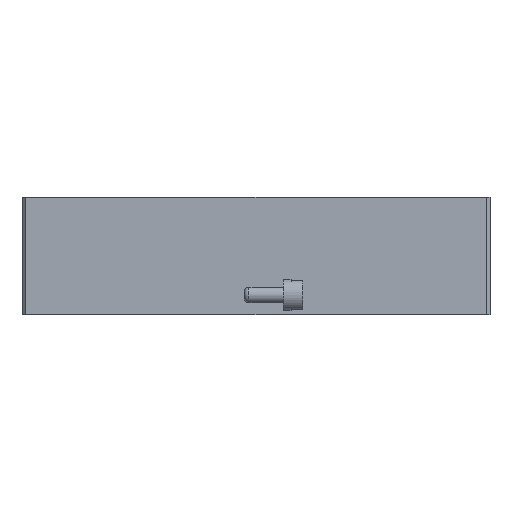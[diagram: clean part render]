
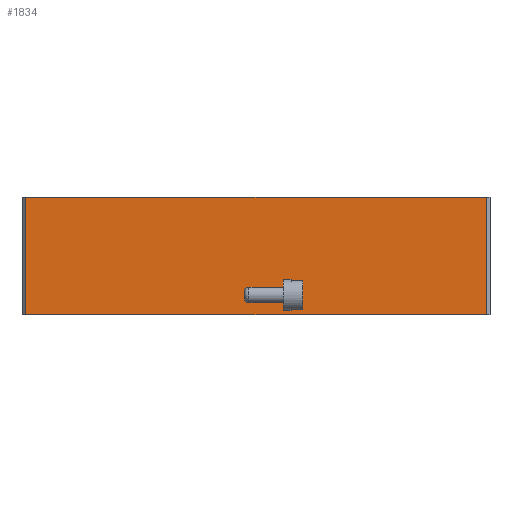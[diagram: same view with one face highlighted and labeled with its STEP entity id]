
A CAD part, front view. The second image highlights one B-rep face of the part: STEP entity #1834.
In plain terms, the highlighted planar face has unit normal (0, -1, 0).
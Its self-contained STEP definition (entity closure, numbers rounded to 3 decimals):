
#22 = DIRECTION ( 'NONE',  ( 0., -1., 0. ) ) ;
#86 = DIRECTION ( 'NONE',  ( 0., -1., 0. ) ) ;
#214 = ORIENTED_EDGE ( 'NONE', *, *, #457, .T. ) ;
#223 = CARTESIAN_POINT ( 'NONE',  ( 59., -60., 0. ) ) ;
#234 = CARTESIAN_POINT ( 'NONE',  ( 59., -60., 30. ) ) ;
#275 = DIRECTION ( 'NONE',  ( 0., 0., -1. ) ) ;
#318 = DIRECTION ( 'NONE',  ( 0., 0., 1. ) ) ;
#321 = VERTEX_POINT ( 'NONE', #1169 ) ;
#390 = CARTESIAN_POINT ( 'NONE',  ( -1., -60., 5. ) ) ;
#405 = ORIENTED_EDGE ( 'NONE', *, *, #1656, .F. ) ;
#450 = VERTEX_POINT ( 'NONE', #1715 ) ;
#457 = EDGE_CURVE ( 'NONE', #1274, #831, #1542, .T. ) ;
#460 = CARTESIAN_POINT ( 'NONE',  ( -60., -60., 0. ) ) ;
#490 = CARTESIAN_POINT ( 'NONE',  ( -60., -60., 30. ) ) ;
#504 = VECTOR ( 'NONE', #1909, 1000. ) ;
#506 = AXIS2_PLACEMENT_3D ( 'NONE', #390, #22, #1650 ) ;
#510 = ORIENTED_EDGE ( 'NONE', *, *, #1055, .T. ) ;
#558 = VECTOR ( 'NONE', #791, 1000. ) ;
#641 = CIRCLE ( 'NONE', #506, 2. ) ;
#791 = DIRECTION ( 'NONE',  ( 1., 0., 0. ) ) ;
#794 = FACE_BOUND ( 'NONE', #1782, .T. ) ;
#831 = VERTEX_POINT ( 'NONE', #1225 ) ;
#912 = EDGE_CURVE ( 'NONE', #1916, #321, #1703, .T. ) ;
#945 = CIRCLE ( 'NONE', #1461, 2. ) ;
#949 = LINE ( 'NONE', #490, #504 ) ;
#955 = ORIENTED_EDGE ( 'NONE', *, *, #912, .T. ) ;
#1055 = EDGE_CURVE ( 'NONE', #831, #1916, #1923, .T. ) ;
#1099 = VECTOR ( 'NONE', #2085, 1000. ) ;
#1169 = CARTESIAN_POINT ( 'NONE',  ( 59., -60., 30. ) ) ;
#1219 = CARTESIAN_POINT ( 'NONE',  ( -1., -60., 5. ) ) ;
#1225 = CARTESIAN_POINT ( 'NONE',  ( -59., -60., 0. ) ) ;
#1263 = PLANE ( 'NONE',  #1607 ) ;
#1274 = VERTEX_POINT ( 'NONE', #1533 ) ;
#1438 = ORIENTED_EDGE ( 'NONE', *, *, #1865, .F. ) ;
#1441 = EDGE_LOOP ( 'NONE', ( #1630, #214, #510, #955 ) ) ;
#1461 = AXIS2_PLACEMENT_3D ( 'NONE', #1219, #86, #1531 ) ;
#1463 = DIRECTION ( 'NONE',  ( 0., 1., 0. ) ) ;
#1504 = EDGE_CURVE ( 'NONE', #1274, #321, #949, .T. ) ;
#1531 = DIRECTION ( 'NONE',  ( 0., 0., 1. ) ) ;
#1533 = CARTESIAN_POINT ( 'NONE',  ( -59., -60., 30. ) ) ;
#1542 = LINE ( 'NONE', #1754, #1992 ) ;
#1567 = CARTESIAN_POINT ( 'NONE',  ( -1., -60., 7. ) ) ;
#1607 = AXIS2_PLACEMENT_3D ( 'NONE', #1919, #1463, #318 ) ;
#1619 = FACE_OUTER_BOUND ( 'NONE', #1441, .T. ) ;
#1630 = ORIENTED_EDGE ( 'NONE', *, *, #1504, .F. ) ;
#1650 = DIRECTION ( 'NONE',  ( 0., 0., 1. ) ) ;
#1656 = EDGE_CURVE ( 'NONE', #2087, #450, #945, .T. ) ;
#1703 = LINE ( 'NONE', #234, #1099 ) ;
#1715 = CARTESIAN_POINT ( 'NONE',  ( -1., -60., 3. ) ) ;
#1754 = CARTESIAN_POINT ( 'NONE',  ( -59., -60., 30. ) ) ;
#1782 = EDGE_LOOP ( 'NONE', ( #405, #1438 ) ) ;
#1834 = ADVANCED_FACE ( 'NONE', ( #794, #1619 ), #1263, .F. ) ;
#1865 = EDGE_CURVE ( 'NONE', #450, #2087, #641, .T. ) ;
#1909 = DIRECTION ( 'NONE',  ( 1., 0., 0. ) ) ;
#1916 = VERTEX_POINT ( 'NONE', #223 ) ;
#1919 = CARTESIAN_POINT ( 'NONE',  ( -60., -60., 30. ) ) ;
#1923 = LINE ( 'NONE', #460, #558 ) ;
#1992 = VECTOR ( 'NONE', #275, 1000. ) ;
#2085 = DIRECTION ( 'NONE',  ( 0., 0., 1. ) ) ;
#2087 = VERTEX_POINT ( 'NONE', #1567 ) ;
